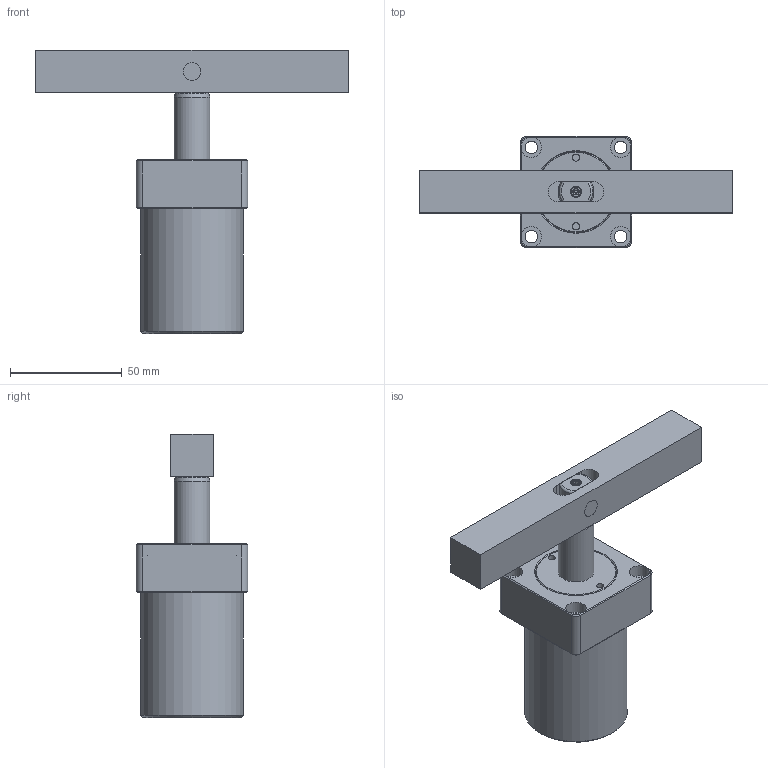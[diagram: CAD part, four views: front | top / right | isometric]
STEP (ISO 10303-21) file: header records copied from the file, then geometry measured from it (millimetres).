
FILE_DESCRIPTION(/* description */ ('Unknown'),/* implementation_level */ '2;1');
FILE_NAME(/* name */ 'ASC-FA32D-B',/* time_stamp */ '2019-05-20T10:28:02+08:00',/* author */ ('Unknown'),/* organization */ ('Unknown'),/* preprocessor_version */ 'ST-DEVELOPER v16.7',/* originating_system */ 'DEX',/* authorisation */ $);
FILE_SCHEMA (('AUTOMOTIVE_DESIGN {1 0 10303 214 3 1 1}'));
Length unit declared in the file: millimetre
Products named in the file (5): ASC-FA32D-B; ASC-FA32D-CYLINDER; ASC-3202-D-AXLE CENTRE; ASC-32D-B; ASC-3202-D-FIXED PIN
Assembly tree (4 placements, depth 2):
  ASC-FA32D-B
    ASC-FA32D-CYLINDER
    ASC-3202-D-AXLE CENTRE
    ASC-32D-B
    ASC-3202-D-FIXED PIN
Bounding box: 140 x 50 x 127 mm (x, y, z)
Volume: 177576.4 mm3; surface area: 44638.8 mm2
Topology: 4 solids, 4 shells, 118 faces, 251 edges, 152 vertices
Faces by surface type: plane 55, cylinder 29, cone 18, bspline 12, torus 4
Full cylindrical faces by diameter (mm): 3.2 x2, 5.6 x4, 8 x4, 9 x4, 9.147 x2, 16 x2, 32 x2, 46 x1
Entity records: 3549 total; most frequent: CARTESIAN_POINT 653, DIRECTION 508, ORIENTED_EDGE 406, AXIS2_PLACEMENT_3D 210, EDGE_CURVE 203, EDGE_LOOP 178, FACE_BOUND 178, VERTEX_POINT 137
